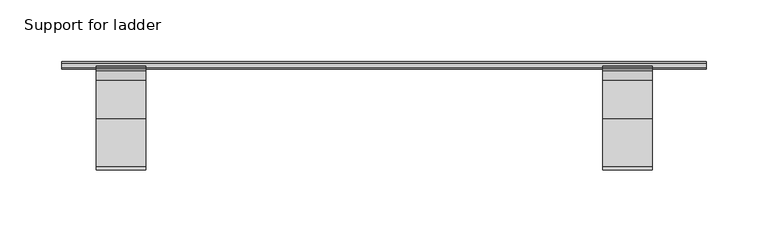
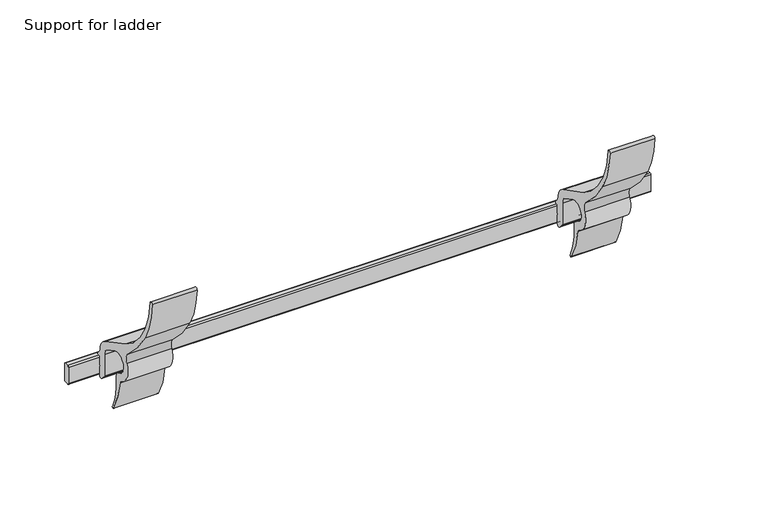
"""IFC4 building model written with IfcOpenShell, lengths in millimetres: proxy geometry, GROVIK_Special_Ladder Support : Support for ladder."""

from ifc_helpers import new_model, si_unit, point, frame, frame_2d, origin, place, context, project, spatial, polyline, circle_curve, trimmed, segment, composite_curve, outline, extrude, source, transform, mapped, element, save


def support_for_ladder_f5df2bd2(model_context):
    return source(origin(), model_context, "Body", "SweptSolid", [
        extrude(outline(composite_curve([segment(polyline([(-130.3471133, -30.2400648), (-134.3471133, -26.5949601)]), True, "CONTINUOUS"), segment(trimmed(circle_curve(frame_2d((-133.0, -25.1166889)), 2.0), [point((-134.3471133, -26.5949601))], [point((-135.0, -25.1166889))], False, "CARTESIAN"), True, "CONTINUOUS"), segment(polyline([(-135.0, -25.1166889), (-135.0, -4.6356846)]), True, "CONTINUOUS"), segment(trimmed(circle_curve(frame_2d((-142.5037926, -4.6356846)), 7.5037926), [point((-135.0, -4.6356846))], [point((-139.0572751, 2.0297802))], True, "CARTESIAN"), True, "CONTINUOUS"), segment(polyline([(-139.0572751, 2.0297802), (-151.2875493, 8.3536984)]), True, "CONTINUOUS"), segment(trimmed(circle_curve(frame_2d((-155.4171148, 0.3672387)), 8.9909315), [point((-151.2875493, 8.3536984))], [point((-159.5466803, -7.6192211))], True, "CARTESIAN"), True, "CONTINUOUS"), segment(polyline([(-159.5466803, -7.6192211), (-155.7022475, -9.6070652)]), True, "CONTINUOUS"), segment(trimmed(circle_curve(frame_2d((-157.9943388, -14.0399034)), 4.9903644), [point((-155.7022475, -9.6070652))], [point((-153.0376282, -14.6184852))], False, "CARTESIAN"), True, "CONTINUOUS"), segment(trimmed(circle_curve(frame_2d((-91.4949065, -19.651373)), 61.7481705), [point((-153.0376282, -14.6184852))], [point((-147.0379542, -46.6292604))], True, "CARTESIAN"), True, "CONTINUOUS"), segment(trimmed(circle_curve(frame_2d((-147.7006523, -47.0248433)), 0.7717867), [point((-147.0379542, -46.6292604))], [point((-148.3633504, -47.4204262))], False, "CARTESIAN"), True, "CONTINUOUS"), segment(trimmed(circle_curve(frame_2d((-81.0899225, -7.2630493)), 78.3474889), [point((-148.3633504, -47.4204262))], [point((-158.8173707, -17.1003669))], False, "CARTESIAN"), True, "CONTINUOUS"), segment(trimmed(circle_curve(frame_2d((-162.1430681, -17.5212728)), 3.3522268), [point((-158.8173707, -17.1003669))], [point((-160.9203712, -14.399985))], True, "CARTESIAN"), True, "CONTINUOUS"), segment(trimmed(circle_curve(frame_2d((-155.1599333, 0.3052001)), 15.7931983), [point((-160.9203712, -14.399985))], [point((-169.1668738, 7.6011395))], False, "CARTESIAN"), True, "CONTINUOUS"), segment(trimmed(circle_curve(frame_2d((-176.2881022, 11.3104472)), 8.0293747), [point((-169.1668738, 7.6011395))], [point((-171.0776299, 17.4196072))], True, "CARTESIAN"), True, "CONTINUOUS"), segment(trimmed(circle_curve(frame_2d((-89.579421, 112.9743997)), 125.5893165), [point((-171.0776299, 17.4196072))], [point((-197.477544, 48.7040995))], False, "CARTESIAN"), True, "CONTINUOUS"), segment(trimmed(circle_curve(frame_2d((-120.8112333, 91.3675806)), 87.7376533), [point((-197.477544, 48.7040995))], [point((-208.428938, 86.7813361))], False, "CARTESIAN"), True, "CONTINUOUS"), segment(trimmed(circle_curve(frame_2d((-206.9250855, 86.8600534)), 1.5059113), [point((-208.428938, 86.7813361))], [point((-205.4212329, 86.9387708))], False, "CARTESIAN"), True, "CONTINUOUS"), segment(trimmed(circle_curve(frame_2d((-128.7314624, 90.9530056)), 76.7947589), [point((-205.4212329, 86.9387708))], [point((-166.7458357, 24.2271305))], True, "CARTESIAN"), True, "CONTINUOUS"), segment(polyline([(-166.7458357, 24.2271305), (-135.8246835, 8.2387043)]), True, "CONTINUOUS"), segment(trimmed(circle_curve(frame_2d((-141.8951082, -4.2639535)), 13.8984355), [point((-135.8246835, 8.2387043))], [point((-128.0088177, -3.683055))], False, "CARTESIAN"), True, "CONTINUOUS"), segment(trimmed(circle_curve(frame_2d((-123.0376396, -3.4750981)), 4.9755259), [point((-128.0088177, -3.683055))], [point((-126.5125484, -7.0361185))], True, "CARTESIAN"), True, "CONTINUOUS"), segment(polyline([(-126.5125484, -7.0361185), (-125.0968592, -8.4175739)]), True, "CONTINUOUS"), segment(trimmed(circle_curve(frame_2d((-126.4789782, -9.8339431)), 1.9789782), [point((-125.0968592, -8.4175739))], [point((-124.5, -9.8339431))], False, "CARTESIAN"), True, "CONTINUOUS"), segment(polyline([(-124.5, -9.8339431), (-124.5, -11.0), (-127.0, -11.0), (-127.0, -18.8350044), (-127.7, -20.0), (-127.0, -21.1649956), (-127.0, -28.7617936)]), True, "CONTINUOUS"), segment(trimmed(circle_curve(frame_2d((-129.0, -28.7617936)), 2.0), [point((-127.0, -28.7617936))], [point((-130.3471133, -30.2400648))], False, "CARTESIAN"), True, "CONTINUOUS")], self_intersect=False)), frame((176.6319399, 0.0, 0.0), z_axis=(1.0, 0.0, 0.0), x_axis=(0.0, 1.0, 0.0)), (0.0, 0.0, 1.0), 40.0),
        extrude(outline(composite_curve([segment(polyline([(-130.3471133, -30.2400648), (-134.3471133, -26.5949601)]), True, "CONTINUOUS"), segment(trimmed(circle_curve(frame_2d((-133.0, -25.1166889)), 2.0), [point((-134.3471133, -26.5949601))], [point((-135.0, -25.1166889))], False, "CARTESIAN"), True, "CONTINUOUS"), segment(polyline([(-135.0, -25.1166889), (-135.0, -4.6356846)]), True, "CONTINUOUS"), segment(trimmed(circle_curve(frame_2d((-142.5037926, -4.6356846)), 7.5037926), [point((-135.0, -4.6356846))], [point((-139.0572751, 2.0297802))], True, "CARTESIAN"), True, "CONTINUOUS"), segment(polyline([(-139.0572751, 2.0297802), (-151.2875493, 8.3536984)]), True, "CONTINUOUS"), segment(trimmed(circle_curve(frame_2d((-155.4171148, 0.3672387)), 8.9909315), [point((-151.2875493, 8.3536984))], [point((-159.5466803, -7.6192211))], True, "CARTESIAN"), True, "CONTINUOUS"), segment(polyline([(-159.5466803, -7.6192211), (-155.7022475, -9.6070652)]), True, "CONTINUOUS"), segment(trimmed(circle_curve(frame_2d((-157.9943388, -14.0399034)), 4.9903644), [point((-155.7022475, -9.6070652))], [point((-153.0376282, -14.6184852))], False, "CARTESIAN"), True, "CONTINUOUS"), segment(trimmed(circle_curve(frame_2d((-91.4949065, -19.651373)), 61.7481705), [point((-153.0376282, -14.6184852))], [point((-147.0379542, -46.6292604))], True, "CARTESIAN"), True, "CONTINUOUS"), segment(trimmed(circle_curve(frame_2d((-147.7006523, -47.0248433)), 0.7717867), [point((-147.0379542, -46.6292604))], [point((-148.3633504, -47.4204262))], False, "CARTESIAN"), True, "CONTINUOUS"), segment(trimmed(circle_curve(frame_2d((-81.0899225, -7.2630493)), 78.3474889), [point((-148.3633504, -47.4204262))], [point((-158.8173707, -17.1003669))], False, "CARTESIAN"), True, "CONTINUOUS"), segment(trimmed(circle_curve(frame_2d((-162.1430681, -17.5212728)), 3.3522268), [point((-158.8173707, -17.1003669))], [point((-160.9203712, -14.399985))], True, "CARTESIAN"), True, "CONTINUOUS"), segment(trimmed(circle_curve(frame_2d((-155.1599333, 0.3052001)), 15.7931983), [point((-160.9203712, -14.399985))], [point((-169.1668738, 7.6011395))], False, "CARTESIAN"), True, "CONTINUOUS"), segment(trimmed(circle_curve(frame_2d((-176.2881022, 11.3104472)), 8.0293747), [point((-169.1668738, 7.6011395))], [point((-171.0776299, 17.4196072))], True, "CARTESIAN"), True, "CONTINUOUS"), segment(trimmed(circle_curve(frame_2d((-89.579421, 112.9743997)), 125.5893165), [point((-171.0776299, 17.4196072))], [point((-197.477544, 48.7040995))], False, "CARTESIAN"), True, "CONTINUOUS"), segment(trimmed(circle_curve(frame_2d((-120.8112333, 91.3675806)), 87.7376533), [point((-197.477544, 48.7040995))], [point((-208.428938, 86.7813361))], False, "CARTESIAN"), True, "CONTINUOUS"), segment(trimmed(circle_curve(frame_2d((-206.9250855, 86.8600534)), 1.5059113), [point((-208.428938, 86.7813361))], [point((-205.4212329, 86.9387708))], False, "CARTESIAN"), True, "CONTINUOUS"), segment(trimmed(circle_curve(frame_2d((-128.7314624, 90.9530056)), 76.7947589), [point((-205.4212329, 86.9387708))], [point((-166.7458357, 24.2271305))], True, "CARTESIAN"), True, "CONTINUOUS"), segment(polyline([(-166.7458357, 24.2271305), (-135.8246835, 8.2387043)]), True, "CONTINUOUS"), segment(trimmed(circle_curve(frame_2d((-141.8951082, -4.2639535)), 13.8984355), [point((-135.8246835, 8.2387043))], [point((-128.0088177, -3.683055))], False, "CARTESIAN"), True, "CONTINUOUS"), segment(trimmed(circle_curve(frame_2d((-123.0376396, -3.4750981)), 4.9755259), [point((-128.0088177, -3.683055))], [point((-126.5125484, -7.0361185))], True, "CARTESIAN"), True, "CONTINUOUS"), segment(polyline([(-126.5125484, -7.0361185), (-125.0968592, -8.4175739)]), True, "CONTINUOUS"), segment(trimmed(circle_curve(frame_2d((-126.4789782, -9.8339431)), 1.9789782), [point((-125.0968592, -8.4175739))], [point((-124.5, -9.8339431))], False, "CARTESIAN"), True, "CONTINUOUS"), segment(polyline([(-124.5, -9.8339431), (-124.5, -11.0), (-127.0, -11.0), (-127.0, -18.8350044), (-127.7, -20.0), (-127.0, -21.1649956), (-127.0, -28.7617936)]), True, "CONTINUOUS"), segment(trimmed(circle_curve(frame_2d((-129.0, -28.7617936)), 2.0), [point((-127.0, -28.7617936))], [point((-130.3471133, -30.2400648))], False, "CARTESIAN"), True, "CONTINUOUS")], self_intersect=False)), frame((-232.2531179, 0.0, 0.0), z_axis=(1.0, 0.0, 0.0), x_axis=(0.0, 1.0, 0.0)), (0.0, 0.0, 1.0), 40.0),
        extrude(outline(composite_curve([segment(polyline([(-126.0, -11.0), (-122.0, -11.0)]), True, "CONTINUOUS"), segment(trimmed(circle_curve(frame_2d((-122.0, -12.0)), 1.0), [point((-122.0, -11.0))], [point((-121.0, -12.0))], False, "CARTESIAN"), True, "CONTINUOUS"), segment(polyline([(-121.0, -12.0), (-121.0, -27.5)]), True, "CONTINUOUS"), segment(trimmed(circle_curve(frame_2d((-122.0, -27.5)), 1.0), [point((-121.0, -27.5))], [point((-122.0, -28.5))], False, "CARTESIAN"), True, "CONTINUOUS"), segment(polyline([(-122.0, -28.5), (-126.0, -28.5)]), True, "CONTINUOUS"), segment(trimmed(circle_curve(frame_2d((-126.0, -27.5)), 1.0), [point((-126.0, -28.5))], [point((-127.0, -27.5))], False, "CARTESIAN"), True, "CONTINUOUS"), segment(polyline([(-127.0, -27.5), (-127.0, -12.0)]), True, "CONTINUOUS"), segment(trimmed(circle_curve(frame_2d((-126.0, -12.0)), 1.0), [point((-127.0, -12.0))], [point((-126.0, -11.0))], False, "CARTESIAN"), True, "CONTINUOUS")], self_intersect=False)), frame((-260.0, 0.0, 0.0), z_axis=(1.0, 0.0, 0.0), x_axis=(0.0, 1.0, 0.0)), (0.0, 0.0, 1.0), 520.0),
    ])


if __name__ == "__main__":
    model = new_model("IFC4")
    model_context = context("Model", 3, world=origin())
    ifc_project = project(units=[si_unit("LENGTHUNIT", "METRE", prefix="MILLI")], contexts=[model_context])
    site = spatial("IfcSite", under=ifc_project)
    building = spatial("IfcBuilding", under=site)
    placement = place(None, origin())
    support_for_ladder_shape = support_for_ladder_f5df2bd2(model_context)
    element("IfcBuildingElementProxy", 1, Name="GROVIK_Special_Ladder Support : Support for ladder", ObjectType="GROVIK_Special_Ladder Support : Support for ladder", at=placement, inside=building, context=model_context, shape_type="MappedRepresentation", body=[
        mapped(support_for_ladder_shape, transform((0.0, 0.0, 0.0), x_axis=(1.0, 0.0, 0.0), y_axis=(0.0, 1.0, 0.0), z_axis=(0.0, 0.0, 1.0))),
    ])
    save(model, "model.ifc")
